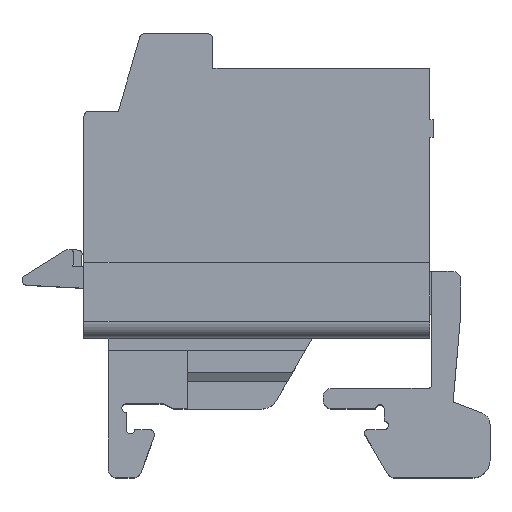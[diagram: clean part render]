
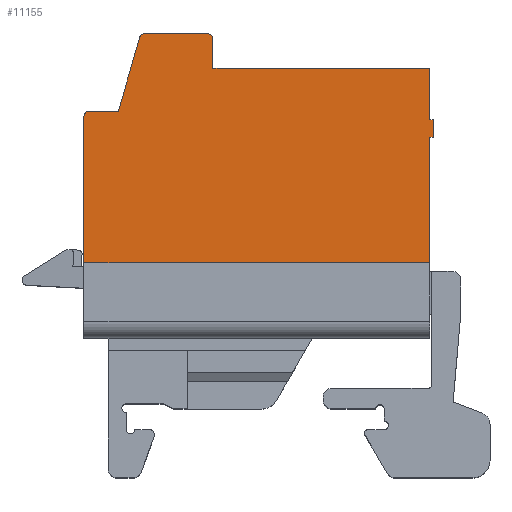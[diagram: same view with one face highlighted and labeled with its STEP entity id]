
A CAD part, top view. The second image highlights one B-rep face of the part: STEP entity #11155.
In plain terms, the highlighted planar face has unit normal (0, 0, 1).
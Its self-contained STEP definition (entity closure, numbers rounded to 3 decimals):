
#63=DIRECTION('',(0.,1.,0.));
#64=VECTOR('',#63,7.3);
#65=CARTESIAN_POINT('',(20.1,0.,-10.255));
#66=LINE('',#65,#64);
#603=DIRECTION('',(1.,0.,0.));
#604=VECTOR('',#603,20.1);
#605=CARTESIAN_POINT('',(0.,0.,-10.255));
#606=LINE('',#605,#604);
#2121=DIRECTION('',(-1.,0.,0.));
#2122=VECTOR('',#2121,12.6);
#2123=CARTESIAN_POINT('',(20.1,11.3,-10.255));
#2124=LINE('',#2123,#2122);
#2296=DIRECTION('',(0.,-1.,0.));
#2297=VECTOR('',#2296,3.);
#2298=CARTESIAN_POINT('',(20.1,11.3,-10.255));
#2299=LINE('',#2298,#2297);
#2300=DIRECTION('',(1.,0.,0.));
#2301=VECTOR('',#2300,0.2);
#2302=CARTESIAN_POINT('',(20.1,8.3,-10.255));
#2303=LINE('',#2302,#2301);
#2304=DIRECTION('',(0.,-1.,0.));
#2305=VECTOR('',#2304,1.);
#2306=CARTESIAN_POINT('',(20.3,8.3,-10.255));
#2307=LINE('',#2306,#2305);
#2308=DIRECTION('',(-1.,0.,0.));
#2309=VECTOR('',#2308,0.2);
#2310=CARTESIAN_POINT('',(20.3,7.3,-10.255));
#2311=LINE('',#2310,#2309);
#2312=DIRECTION('',(0.,1.,0.));
#2313=VECTOR('',#2312,8.5);
#2314=CARTESIAN_POINT('',(0.,0.,-10.255));
#2315=LINE('',#2314,#2313);
#2316=CARTESIAN_POINT('',(0.3,8.5,-10.255));
#2317=DIRECTION('',(0.,0.,-1.));
#2318=DIRECTION('',(-1.,0.,0.));
#2319=AXIS2_PLACEMENT_3D('',#2316,#2317,#2318);
#2321=DIRECTION('',(1.,0.,0.));
#2322=VECTOR('',#2321,1.7);
#2323=CARTESIAN_POINT('',(0.3,8.8,-10.255));
#2324=LINE('',#2323,#2322);
#2325=DIRECTION('',(0.278,0.961,0.));
#2326=VECTOR('',#2325,4.458);
#2327=CARTESIAN_POINT('',(2.,8.8,-10.255));
#2328=LINE('',#2327,#2326);
#2329=CARTESIAN_POINT('',(3.526,13.,-10.255));
#2330=DIRECTION('',(0.,0.,-1.));
#2331=DIRECTION('',(-0.961,0.278,0.));
#2332=AXIS2_PLACEMENT_3D('',#2329,#2330,#2331);
#2334=DIRECTION('',(1.,0.,0.));
#2335=VECTOR('',#2334,3.674);
#2336=CARTESIAN_POINT('',(3.526,13.3,-10.255));
#2337=LINE('',#2336,#2335);
#2338=CARTESIAN_POINT('',(7.2,13.,-10.255));
#2339=DIRECTION('',(0.,0.,-1.));
#2340=DIRECTION('',(0.,1.,0.));
#2341=AXIS2_PLACEMENT_3D('',#2338,#2339,#2340);
#2343=DIRECTION('',(0.,-1.,0.));
#2344=VECTOR('',#2343,1.7);
#2345=CARTESIAN_POINT('',(7.5,13.,-10.255));
#2346=LINE('',#2345,#2344);
#6641=CARTESIAN_POINT('',(20.1,0.,-10.255));
#6642=VERTEX_POINT('',#6641);
#6643=CARTESIAN_POINT('',(20.1,7.3,-10.255));
#6644=VERTEX_POINT('',#6643);
#6789=CARTESIAN_POINT('',(0.,0.,-10.255));
#6790=VERTEX_POINT('',#6789);
#6860=CARTESIAN_POINT('',(0.,8.5,-10.255));
#6861=VERTEX_POINT('',#6860);
#7336=CARTESIAN_POINT('',(20.1,11.3,-10.255));
#7337=VERTEX_POINT('',#7336);
#7338=CARTESIAN_POINT('',(7.5,11.3,-10.255));
#7339=VERTEX_POINT('',#7338);
#7424=CARTESIAN_POINT('',(20.1,8.3,-10.255));
#7425=VERTEX_POINT('',#7424);
#7426=CARTESIAN_POINT('',(20.3,8.3,-10.255));
#7427=VERTEX_POINT('',#7426);
#7428=CARTESIAN_POINT('',(20.3,7.3,-10.255));
#7429=VERTEX_POINT('',#7428);
#7430=CARTESIAN_POINT('',(0.3,8.8,-10.255));
#7431=VERTEX_POINT('',#7430);
#7432=CARTESIAN_POINT('',(2.,8.8,-10.255));
#7433=VERTEX_POINT('',#7432);
#7434=CARTESIAN_POINT('',(3.237,13.083,-10.255));
#7435=VERTEX_POINT('',#7434);
#7436=CARTESIAN_POINT('',(3.526,13.3,-10.255));
#7437=VERTEX_POINT('',#7436);
#7438=CARTESIAN_POINT('',(7.2,13.3,-10.255));
#7439=VERTEX_POINT('',#7438);
#7440=CARTESIAN_POINT('',(7.5,13.,-10.255));
#7441=VERTEX_POINT('',#7440);
#11126=CARTESIAN_POINT('',(15.9,0.8,-10.255));
#11127=DIRECTION('',(0.,0.,1.));
#11128=DIRECTION('',(-1.,0.,0.));
#11129=AXIS2_PLACEMENT_3D('',#11126,#11127,#11128);
#11130=PLANE('',#11129);
#11131=ORIENTED_EDGE('',*,*,#10973,.F.);
#11132=ORIENTED_EDGE('',*,*,#11078,.T.);
#11133=ORIENTED_EDGE('',*,*,#11092,.T.);
#11134=ORIENTED_EDGE('',*,*,#11106,.T.);
#11135=ORIENTED_EDGE('',*,*,#11119,.T.);
#11136=ORIENTED_EDGE('',*,*,#8279,.F.);
#11137=ORIENTED_EDGE('',*,*,#9016,.F.);
#11138=ORIENTED_EDGE('',*,*,#9053,.T.);
#11140=ORIENTED_EDGE('',*,*,#11139,.T.);
#11142=ORIENTED_EDGE('',*,*,#11141,.T.);
#11144=ORIENTED_EDGE('',*,*,#11143,.T.);
#11146=ORIENTED_EDGE('',*,*,#11145,.T.);
#11148=ORIENTED_EDGE('',*,*,#11147,.T.);
#11150=ORIENTED_EDGE('',*,*,#11149,.T.);
#11152=ORIENTED_EDGE('',*,*,#11151,.T.);
#11153=EDGE_LOOP('',(#11131,#11132,#11133,#11134,#11135,#11136,#11137,#11138,
#11140,#11142,#11144,#11146,#11148,#11150,#11152));
#11154=FACE_OUTER_BOUND('',#11153,.F.);
#11155=ADVANCED_FACE('',(#11154),#11130,.T.);
#2320=CIRCLE('',#2319,0.3);
#2333=CIRCLE('',#2332,0.3);
#2342=CIRCLE('',#2341,0.3);
#8279=EDGE_CURVE('',#6642,#6644,#66,.T.);
#9016=EDGE_CURVE('',#6790,#6642,#606,.T.);
#9053=EDGE_CURVE('',#6790,#6861,#2315,.T.);
#10973=EDGE_CURVE('',#7337,#7339,#2124,.T.);
#11078=EDGE_CURVE('',#7337,#7425,#2299,.T.);
#11092=EDGE_CURVE('',#7425,#7427,#2303,.T.);
#11106=EDGE_CURVE('',#7427,#7429,#2307,.T.);
#11119=EDGE_CURVE('',#7429,#6644,#2311,.T.);
#11139=EDGE_CURVE('',#6861,#7431,#2320,.T.);
#11141=EDGE_CURVE('',#7431,#7433,#2324,.T.);
#11143=EDGE_CURVE('',#7433,#7435,#2328,.T.);
#11145=EDGE_CURVE('',#7435,#7437,#2333,.T.);
#11147=EDGE_CURVE('',#7437,#7439,#2337,.T.);
#11149=EDGE_CURVE('',#7439,#7441,#2342,.T.);
#11151=EDGE_CURVE('',#7441,#7339,#2346,.T.);
